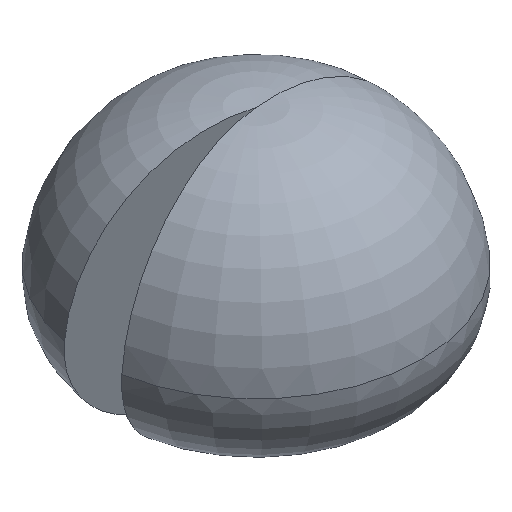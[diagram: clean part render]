
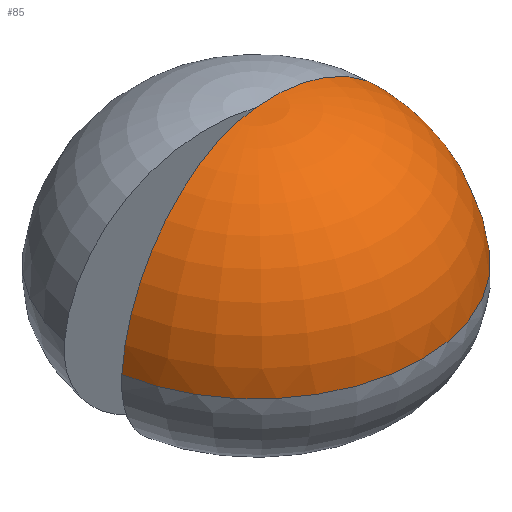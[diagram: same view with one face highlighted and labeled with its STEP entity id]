
A CAD part, isometric view. The second image highlights one B-rep face of the part: STEP entity #85.
In plain terms, the highlighted toroidal (fillet/blend) face has major radius 320 mm and minor radius 2882.16 mm.
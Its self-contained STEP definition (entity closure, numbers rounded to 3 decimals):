
#11 = DIRECTION ( 'NONE',  ( 0., 0., -1. ) ) ;
#12 = DIRECTION ( 'NONE',  ( 0., -1., 0. ) ) ;
#13 = ORIENTED_EDGE ( 'NONE', *, *, #298, .T. ) ;
#16 = VERTEX_POINT ( 'NONE', #197 ) ;
#17 = CARTESIAN_POINT ( 'NONE',  ( 320., 0., 780. ) ) ;
#36 = DIRECTION ( 'NONE',  ( 1., 0., 0. ) ) ;
#38 = DIRECTION ( 'NONE',  ( 0., 0., 1. ) ) ;
#41 = CARTESIAN_POINT ( 'NONE',  ( 0., 0., 1032.75 ) ) ;
#80 = CARTESIAN_POINT ( 'NONE',  ( -315.138, -55.567, 780. ) ) ;
#82 = DIRECTION ( 'NONE',  ( 0., 0., -1. ) ) ;
#84 = DIRECTION ( 'NONE',  ( 0.174, -0.985, 0. ) ) ;
#85 = ADVANCED_FACE ( 'NONE', ( #245 ), #239, .T. ) ;
#124 = CARTESIAN_POINT ( 'NONE',  ( 0., 0., 3644.342 ) ) ;
#136 = VERTEX_POINT ( 'NONE', #172 ) ;
#143 = VERTEX_POINT ( 'NONE', #124 ) ;
#172 = CARTESIAN_POINT ( 'NONE',  ( 3191.058, 0., 1032.75 ) ) ;
#174 = DIRECTION ( 'NONE',  ( 1., 0., 0. ) ) ;
#179 = ORIENTED_EDGE ( 'NONE', *, *, #291, .T. ) ;
#182 = DIRECTION ( 'NONE',  ( 0., 0., 1. ) ) ;
#189 = CARTESIAN_POINT ( 'NONE',  ( 0., 0., 780. ) ) ;
#197 = CARTESIAN_POINT ( 'NONE',  ( -3142.578, -554.121, 1032.75 ) ) ;
#223 = CIRCLE ( 'NONE', #243, 3191.058 ) ;
#228 = EDGE_LOOP ( 'NONE', ( #179, #13, #275 ) ) ;
#231 = CIRCLE ( 'NONE', #238, 2882.161 ) ;
#238 = AXIS2_PLACEMENT_3D ( 'NONE', #17, #12, #11 ) ;
#239 = TOROIDAL_SURFACE ( 'NONE', #264, 320., 2882.161 ) ;
#243 = AXIS2_PLACEMENT_3D ( 'NONE', #41, #38, #36 ) ;
#245 = FACE_OUTER_BOUND ( 'NONE', #228, .T. ) ;
#260 = AXIS2_PLACEMENT_3D ( 'NONE', #80, #84, #82 ) ;
#264 = AXIS2_PLACEMENT_3D ( 'NONE', #189, #182, #174 ) ;
#275 = ORIENTED_EDGE ( 'NONE', *, *, #286, .T. ) ;
#286 = EDGE_CURVE ( 'NONE', #143, #16, #295, .T. ) ;
#291 = EDGE_CURVE ( 'NONE', #16, #136, #223, .T. ) ;
#295 = CIRCLE ( 'NONE', #260, 2882.161 ) ;
#298 = EDGE_CURVE ( 'NONE', #136, #143, #231, .T. ) ;
